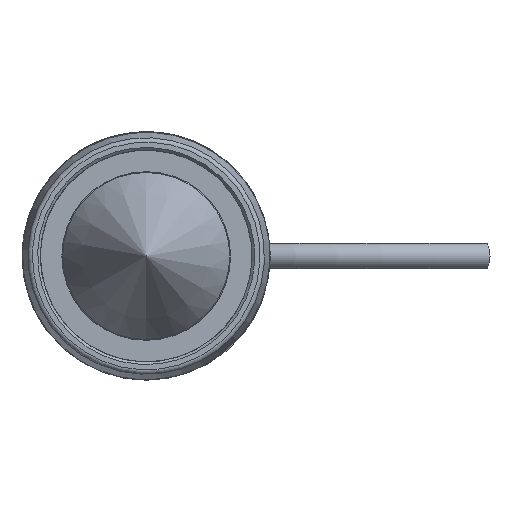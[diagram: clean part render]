
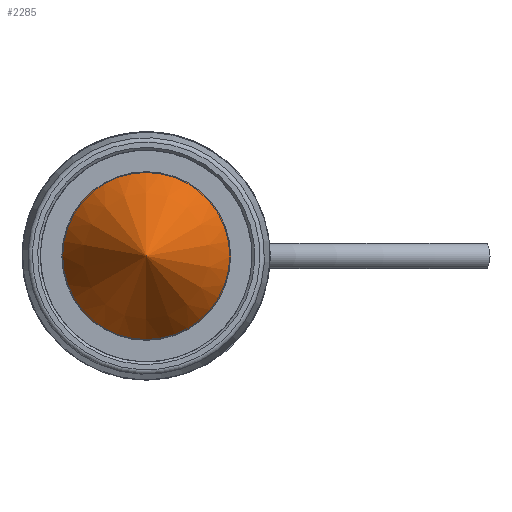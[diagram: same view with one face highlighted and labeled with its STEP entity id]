
A CAD part, front view. The second image highlights one B-rep face of the part: STEP entity #2285.
In plain terms, the highlighted conical face has half-angle 29.818 degrees and reference radius 573.125 mm.
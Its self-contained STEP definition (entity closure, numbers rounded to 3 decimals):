
#99 = DIRECTION ( 'NONE',  ( 0., 1., 0. ) ) ;
#164 = DIRECTION ( 'NONE',  ( 0., 0., 1. ) ) ;
#894 = AXIS2_PLACEMENT_3D ( 'NONE', #5950, #2079, #5455 ) ;
#2079 = DIRECTION ( 'NONE',  ( 0., 1., 0. ) ) ;
#2097 = CARTESIAN_POINT ( 'NONE',  ( 0., 0., 0. ) ) ;
#2285 = ADVANCED_FACE ( 'NONE', ( #3087 ), #4285, .T. ) ;
#2308 = CARTESIAN_POINT ( 'NONE',  ( 0., 0., 9.17 ) ) ;
#2644 = CIRCLE ( 'NONE', #5098, 9.17 ) ;
#3087 = FACE_OUTER_BOUND ( 'NONE', #5169, .T. ) ;
#3761 = VERTEX_POINT ( 'NONE', #2308 ) ;
#3971 = ORIENTED_EDGE ( 'NONE', *, *, #3977, .F. ) ;
#3977 = EDGE_CURVE ( 'NONE', #3761, #3761, #2644, .T. ) ;
#4285 = CONICAL_SURFACE ( 'NONE', #894, 573.125, 0.52 ) ;
#5098 = AXIS2_PLACEMENT_3D ( 'NONE', #2097, #99, #164 ) ;
#5169 = EDGE_LOOP ( 'NONE', ( #3971 ) ) ;
#5455 = DIRECTION ( 'NONE',  ( 0., 0., 1. ) ) ;
#5950 = CARTESIAN_POINT ( 'NONE',  ( 0., 984., 0. ) ) ;
